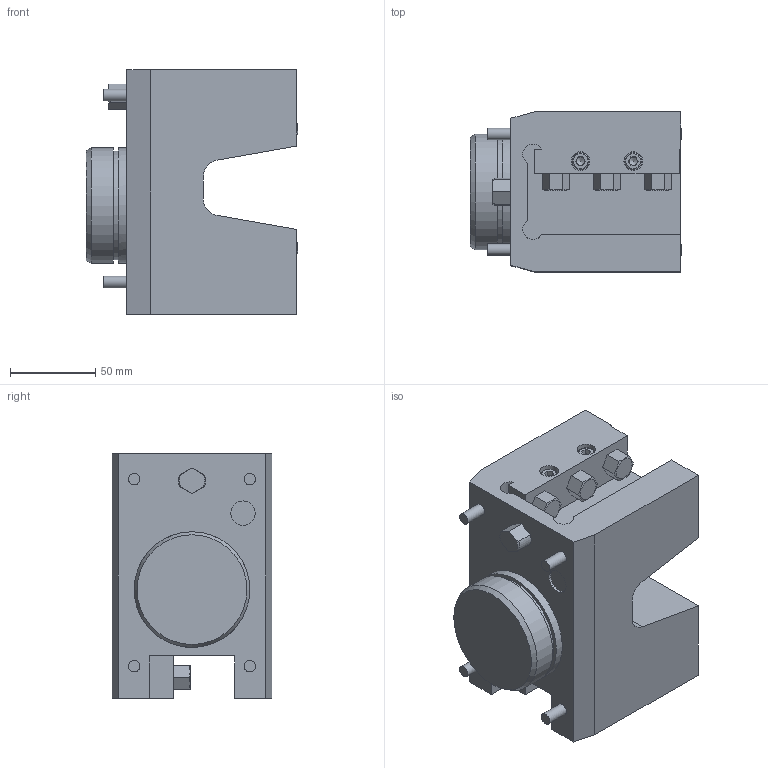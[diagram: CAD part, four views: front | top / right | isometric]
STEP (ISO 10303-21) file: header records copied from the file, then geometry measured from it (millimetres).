
FILE_DESCRIPTION(/* description */ (''),/* implementation_level */ '2;1');
FILE_NAME(/* name */ '193943',/* time_stamp */ '2020-09-28T11:33:18+02:00',/* author */ (''),/* organization */ (''),/* preprocessor_version */ 'ST-DEVELOPER v16.5',/* originating_system */ 'HiCAD 2017 2201.0 Build 268',/* authorisation */ '');
FILE_SCHEMA (('AUTOMOTIVE_DESIGN { 1 0 10303 214 1 1 1 1 }'));
Length unit declared in the file: millimetre
Products named in the file (2): Root; Teil
Assembly tree (1 placements, depth 2):
  Root
    Teil
Bounding box: 124.66 x 94 x 144 mm (x, y, z)
Volume: 1060727.4 mm3; surface area: 100431 mm2
Topology: 1 solids, 5 shells, 200 faces, 459 edges, 300 vertices
Faces by surface type: plane 151, cylinder 26, cone 15, sphere 4, torus 4
Full cylindrical faces by diameter (mm): 6.6 x4, 6.8 x4, 10 x4, 11 x4, 14.27 x1, 63.8 x1, 68 x2
Entity records: 9424 total; most frequent: DIRECTION 956, CARTESIAN_POINT 898, PRESENTATION_STYLE_ASSIGNMENT 817, DRAUGHTING_PRE_DEFINED_CURVE_FONT 816, CURVE_STYLE 816, OVER_RIDING_STYLED_ITEM 816, ORIENTED_EDGE 816, COLOUR_RGB 802
